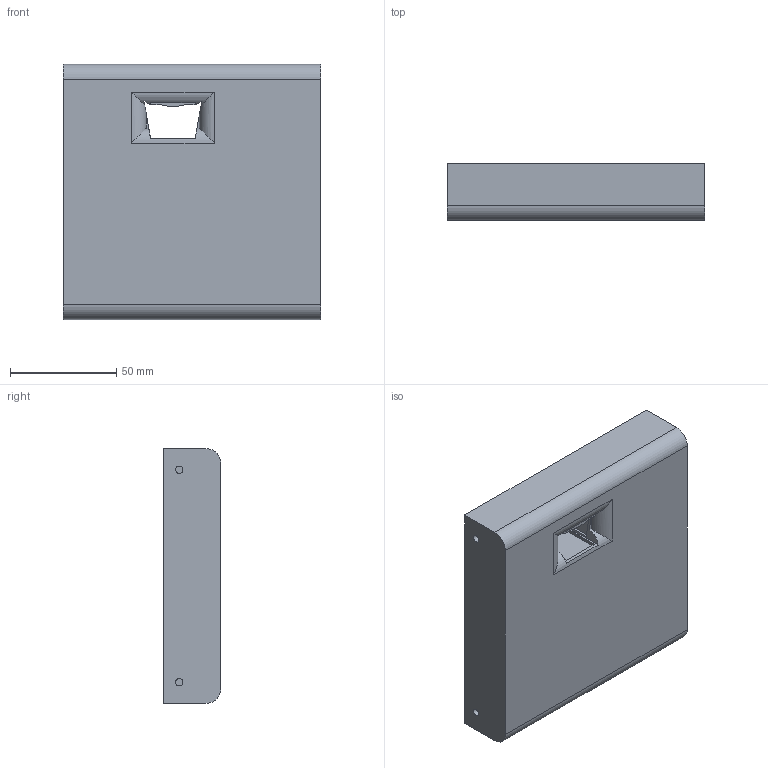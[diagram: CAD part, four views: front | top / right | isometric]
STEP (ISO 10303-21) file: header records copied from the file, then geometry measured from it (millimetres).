
FILE_DESCRIPTION(/* description */ (''),/* implementation_level */ '2;1');
FILE_NAME(/* name */ 'BottomSide.step',/* time_stamp */ '2024-08-31T16:44:14-04:00',/* author */ (''),/* organization */ (''),/* preprocessor_version */ 'ST-DEVELOPER v20',/* originating_system */ 'Autodesk Translation Framework v13.14.0.145',/* authorisation */ '');
FILE_SCHEMA (('AUTOMOTIVE_DESIGN { 1 0 10303 214 3 1 1 }'));
Length unit declared in the file: millimetre
Products named in the file (1): Bottom REPRINT
Bounding box: 121 x 27 x 120 mm (x, y, z)
Volume: 370016.8 mm3; surface area: 45477.5 mm2
Topology: 1 solids, 1 shells, 77 faces, 198 edges, 132 vertices
Faces by surface type: plane 64, cylinder 13
Full cylindrical faces by diameter (mm): 3.454 x3, 4.047 x1
Entity records: 2365 total; most frequent: CARTESIAN_POINT 418, ORIENTED_EDGE 396, DIRECTION 382, EDGE_CURVE 198, LINE 166, VECTOR 166, VERTEX_POINT 132, AXIS2_PLACEMENT_3D 108
